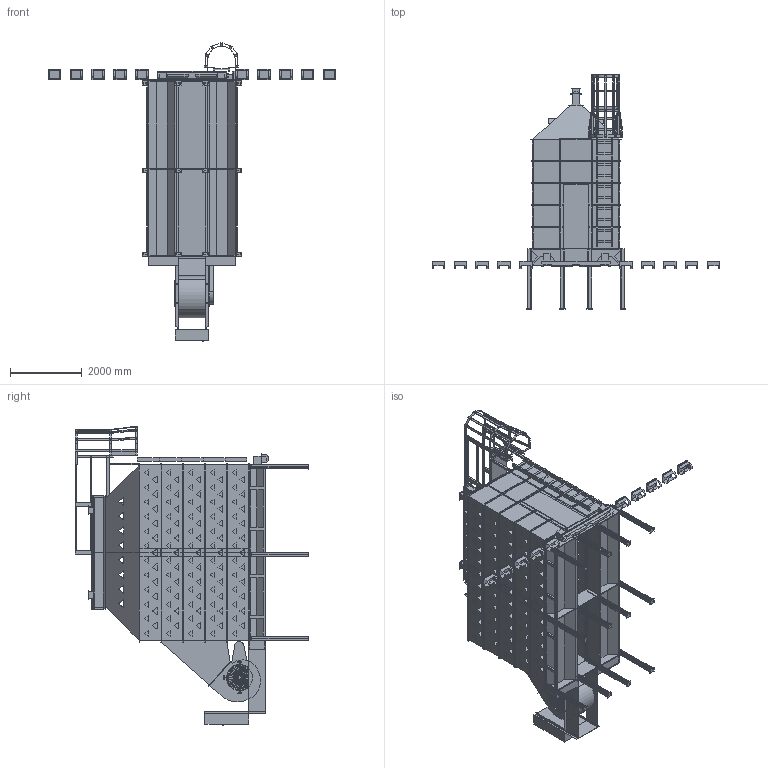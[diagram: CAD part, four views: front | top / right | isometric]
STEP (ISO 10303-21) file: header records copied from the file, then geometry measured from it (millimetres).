
FILE_DESCRIPTION(/* description */ ('PLAN AND ELEVATION VIEW FOR D1670 WITH ROOF & LEVEL AUGER'),/* implementation_level */ '2;1');
FILE_NAME(/* name */ 'C:\Engineering\Designs\Sales\Dryer\Workspaces\D16 All\D1670LA.stp',/* time_stamp */ '2025-01-06T16:41:14-06:00',/* author */ ('max.fleming'),/* organization */ (''),/* preprocessor_version */ 'ST-DEVELOPER v18.1',/* originating_system */ 'Autodesk Inventor 2022',/* authorisation */ '');
FILE_SCHEMA (('AUTOMOTIVE_DESIGN { 1 0 10303 214 3 1 1 }'));
Products named in the file (23): D1670LA; 16FT FRAME; 8FT LHRH FRAME; 16FT ROOF GF; 8FTRoof GF LHRH; 16FT BODY TIER; LH Body; RH Body; LH Body_MIR6; RH Body_MIR6; Outside Splice; Trans & Blower 16FT; Standard Size End Plenum Panels; Ladder 2' section; Level Auger 16'; Level Auger; 8'' Intake; 6'' CROSS AUGER; Short Tongue; Leg Kit-02; 16FT CATWALK; Belt Shield; Screen Guard 16
Assembly tree (44 placements, depth 3):
  D1670LA
    16FT FRAME
      8FT LHRH FRAME  x2
    16FT ROOF GF
      8FTRoof GF LHRH  x2
    16FT BODY TIER  x5
      LH Body
      RH Body
      LH Body_MIR6
      RH Body_MIR6
      Outside Splice
    Leg Kit-02  x12
    Trans & Blower 16FT
    Standard Size End Plenum Panels  x7
    Short Tongue
    16FT CATWALK
    Belt Shield
    Screen Guard 16  x2
  Ladder 2' section
  Level Auger 16'
    Level Auger  x2
  8'' Intake
  6'' CROSS AUGER
Bounding box: 8007.35 x 6510.74 x 8298.27 mm (x, y, z)
Volume: 30867730206.8 mm3; surface area: 425552769.3 mm2
Topology: 91 solids, 91 shells, 6305 faces, 17611 edges, 11538 vertices
Faces by surface type: plane 4794, cylinder 1483, bspline 26, torus 2
Full cylindrical faces by diameter (mm): 15.875 x48, 38.1 x1, 44.45 x12, 95.25 x2, 127 x2
Entity records: 100976 total; most frequent: CARTESIAN_POINT 17929, ORIENTED_EDGE 17540, DIRECTION 16250, EDGE_CURVE 8770, LINE 7286, VECTOR 7286, VERTEX_POINT 5745, AXIS2_PLACEMENT_3D 4482
